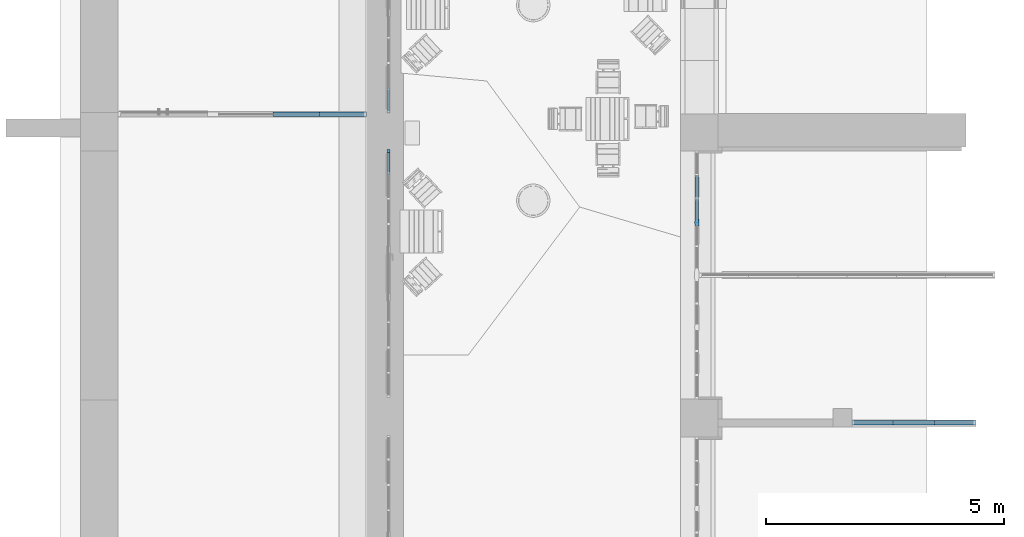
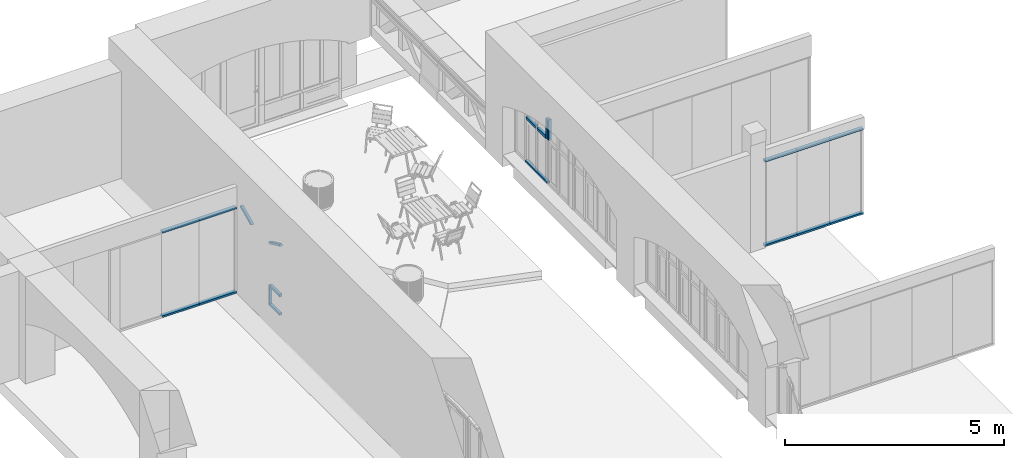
# One storey, part 45 of 88: 20 members, 5 elements without a shape of their own.
"""IFC2X3 building model written with IfcOpenShell, lengths in millimetres."""

from ifc_helpers import new_model, entity, si_unit, converted_unit, derived_unit, direction, frame, frame_2d, origin, place, context, subcontext, project, spatial, polyline, circle_curve, parameter, trimmed, segment, composite_curve, rectangle, outline, extrude, faceted_brep, source, transform, mapped, material, type_object, type_shapes, element, aggregate, save


model = new_model("IFC2X3")

# Units and contexts
model_context = context("Model", 3, precision=0.01, world=origin(), true_north=direction((6.123031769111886e-17, 1.0)))
body_context = subcontext(model_context, "Body", "Model", "MODEL_VIEW")
ifc_project = project(units=[si_unit("LENGTHUNIT", "METRE", prefix="MILLI"), si_unit("AREAUNIT", "SQUARE_METRE"), si_unit("VOLUMEUNIT", "CUBIC_METRE"), converted_unit("PLANEANGLEUNIT", "DEGREE", entity("IfcPlaneAngleMeasure", 0.017453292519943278), si_unit("PLANEANGLEUNIT", "RADIAN"), dimensions=[0, 0, 0, 0, 0, 0, 0]), si_unit("MASSUNIT", "GRAM", prefix="KILO"), derived_unit("MASSDENSITYUNIT", [(si_unit("MASSUNIT", "GRAM", prefix="KILO"), 1), (si_unit("LENGTHUNIT", "METRE"), -3)]), derived_unit("IONCONCENTRATIONUNIT", [(si_unit("MASSUNIT", "GRAM", prefix="KILO"), 1), (si_unit("LENGTHUNIT", "METRE"), -3)]), derived_unit("MOMENTOFINERTIAUNIT", [(si_unit("LENGTHUNIT", "METRE"), 4)]), si_unit("TIMEUNIT", "SECOND"), si_unit("FREQUENCYUNIT", "HERTZ"), si_unit("THERMODYNAMICTEMPERATUREUNIT", "DEGREE_CELSIUS"), derived_unit("THERMALTRANSMITTANCEUNIT", [(si_unit("MASSUNIT", "GRAM", prefix="KILO"), 1), (si_unit("THERMODYNAMICTEMPERATUREUNIT", "KELVIN"), -1), (si_unit("TIMEUNIT", "SECOND"), -3)]), derived_unit("THERMALCONDUCTANCEUNIT", [(si_unit("MASSUNIT", "GRAM", prefix="KILO"), 1), (si_unit("THERMODYNAMICTEMPERATUREUNIT", "KELVIN"), -1), (si_unit("TIMEUNIT", "SECOND"), -3), (si_unit("LENGTHUNIT", "METRE"), 1)]), derived_unit("VOLUMETRICFLOWRATEUNIT", [(si_unit("LENGTHUNIT", "METRE", prefix="DECI"), 3), (si_unit("TIMEUNIT", "SECOND"), -1)]), derived_unit("MASSFLOWRATEUNIT", [(si_unit("MASSUNIT", "GRAM", prefix="KILO"), 1), (si_unit("TIMEUNIT", "SECOND"), -1)]), derived_unit("ROTATIONALFREQUENCYUNIT", [(si_unit("TIMEUNIT", "SECOND"), -1)]), si_unit("ELECTRICCURRENTUNIT", "AMPERE"), si_unit("ELECTRICVOLTAGEUNIT", "VOLT"), si_unit("POWERUNIT", "WATT"), si_unit("FORCEUNIT", "NEWTON", prefix="KILO"), si_unit("ILLUMINANCEUNIT", "LUX"), si_unit("LUMINOUSFLUXUNIT", "LUMEN"), si_unit("LUMINOUSINTENSITYUNIT", "CANDELA"), si_unit("ENERGYUNIT", "JOULE"), derived_unit("USERDEFINED", [(si_unit("MASSUNIT", "GRAM", prefix="KILO"), -1), (si_unit("LENGTHUNIT", "METRE"), -2), (si_unit("TIMEUNIT", "SECOND"), 3), (si_unit("LUMINOUSFLUXUNIT", "LUMEN"), 1)]), derived_unit("USERDEFINED", [(si_unit("MASSUNIT", "GRAM", prefix="KILO"), 1), (si_unit("TIMEUNIT", "SECOND"), -3), (si_unit("LENGTHUNIT", "METRE"), 3), (si_unit("ELECTRICCURRENTUNIT", "AMPERE"), -2)]), derived_unit("SOUNDPOWERUNIT", [(si_unit("MASSUNIT", "GRAM", prefix="KILO"), 1), (si_unit("TIMEUNIT", "SECOND"), -3), (si_unit("LENGTHUNIT", "METRE"), 2)]), derived_unit("SOUNDPRESSUREUNIT", [(si_unit("MASSUNIT", "GRAM", prefix="KILO"), 1), (si_unit("LENGTHUNIT", "METRE"), -1), (si_unit("TIMEUNIT", "SECOND"), -2)]), derived_unit("LINEARVELOCITYUNIT", [(si_unit("LENGTHUNIT", "METRE"), 1), (si_unit("TIMEUNIT", "SECOND"), -1)]), si_unit("PRESSUREUNIT", "PASCAL"), derived_unit("USERDEFINED", [(si_unit("MASSUNIT", "GRAM", prefix="KILO"), 1), (si_unit("LENGTHUNIT", "METRE"), -2), (si_unit("TIMEUNIT", "SECOND"), -2)]), derived_unit("LINEARFORCEUNIT", [(si_unit("MASSUNIT", "GRAM", prefix="KILO"), 1), (si_unit("TIMEUNIT", "SECOND"), -2)]), derived_unit("PLANARFORCEUNIT", [(si_unit("MASSUNIT", "GRAM", prefix="KILO"), 1), (si_unit("LENGTHUNIT", "METRE"), -1), (si_unit("TIMEUNIT", "SECOND"), -2)]), derived_unit("SPECIFICHEATCAPACITYUNIT", [(si_unit("THERMODYNAMICTEMPERATUREUNIT", "KELVIN"), -1), (si_unit("LENGTHUNIT", "METRE"), 2), (si_unit("TIMEUNIT", "SECOND"), -2)]), derived_unit("HEATFLUXDENSITYUNIT", [(si_unit("MASSUNIT", "GRAM", prefix="KILO"), 1), (si_unit("TIMEUNIT", "SECOND"), -3)]), derived_unit("HEATINGVALUEUNIT", [(si_unit("LENGTHUNIT", "METRE"), 2), (si_unit("TIMEUNIT", "SECOND"), -2)]), derived_unit("VAPORPERMEABILITYUNIT", [(si_unit("LENGTHUNIT", "METRE"), -1), (si_unit("TIMEUNIT", "SECOND"), 1)]), derived_unit("DYNAMICVISCOSITYUNIT", [(si_unit("MASSUNIT", "GRAM", prefix="KILO"), 1), (si_unit("TIMEUNIT", "SECOND"), -1), (si_unit("LENGTHUNIT", "METRE"), -1)]), derived_unit("THERMALEXPANSIONCOEFFICIENTUNIT", [(si_unit("THERMODYNAMICTEMPERATUREUNIT", "KELVIN"), -1)]), derived_unit("MODULUSOFELASTICITYUNIT", [(si_unit("MASSUNIT", "GRAM", prefix="KILO"), 1), (si_unit("LENGTHUNIT", "METRE"), -1), (si_unit("TIMEUNIT", "SECOND"), -2)]), derived_unit("ISOTHERMALMOISTURECAPACITYUNIT", [(si_unit("MASSUNIT", "GRAM", prefix="KILO"), -1), (si_unit("LENGTHUNIT", "METRE"), 3)]), derived_unit("MOISTUREDIFFUSIVITYUNIT", [(si_unit("TIMEUNIT", "SECOND"), -1), (si_unit("LENGTHUNIT", "METRE"), 2)]), derived_unit("MASSPERLENGTHUNIT", [(si_unit("MASSUNIT", "GRAM", prefix="KILO"), 1), (si_unit("LENGTHUNIT", "METRE"), -1)]), derived_unit("THERMALRESISTANCEUNIT", [(si_unit("MASSUNIT", "GRAM", prefix="KILO"), -1), (si_unit("TIMEUNIT", "SECOND"), 3), (si_unit("THERMODYNAMICTEMPERATUREUNIT", "KELVIN"), 1)]), derived_unit("ACCELERATIONUNIT", [(si_unit("LENGTHUNIT", "METRE"), 1), (si_unit("TIMEUNIT", "SECOND"), -2)]), derived_unit("ANGULARVELOCITYUNIT", [(si_unit("TIMEUNIT", "SECOND"), -1), (si_unit("PLANEANGLEUNIT", "RADIAN"), 1)]), derived_unit("LINEARSTIFFNESSUNIT", [(si_unit("MASSUNIT", "GRAM", prefix="KILO"), 1), (si_unit("TIMEUNIT", "SECOND"), -2)]), derived_unit("WARPINGCONSTANTUNIT", [(si_unit("LENGTHUNIT", "METRE"), 6)]), derived_unit("LINEARMOMENTUNIT", [(si_unit("MASSUNIT", "GRAM", prefix="KILO"), 1), (si_unit("LENGTHUNIT", "METRE"), 1), (si_unit("TIMEUNIT", "SECOND"), -2)]), derived_unit("TORQUEUNIT", [(si_unit("MASSUNIT", "GRAM", prefix="KILO"), 1), (si_unit("LENGTHUNIT", "METRE"), 2), (si_unit("TIMEUNIT", "SECOND"), -2)])], contexts=[model_context])

# Site, building, storey
site_placement = place(None, origin())
site = spatial("IfcSite", under=ifc_project, at=site_placement, Name="Default", CompositionType="ELEMENT")
building_placement = place(site_placement, origin())
building = spatial("IfcBuilding", under=site, at=building_placement, Name="Eesti Rahvusraamatukogu hoone renoveerimise projekteerimistööd", CompositionType="ELEMENT")
storey_placement = place(building_placement, origin())
storey = spatial("IfcBuildingStorey", under=building, at=storey_placement, Name="1. korrus", CompositionType="ELEMENT", Elevation=0.0)

# Curtain wall, members
curtain_wall_type_1 = type_object("IfcCurtainWallType", Name="Curtain Wall:VLS Klaasvahesein profiilita 38db", PredefinedType="NOTDEFINED")
curtain_wall_1_placement = place(storey_placement, origin())
curtain_wall_1 = element("IfcCurtainWall", 1, at=curtain_wall_1_placement, inside=storey, type_object=curtain_wall_type_1, Name="Curtain Wall:VLS Klaasvahesein profiilita 38db", ObjectType="Curtain Wall:VLS Klaasvahesein profiilita 38db")
ifc_material_1 = material(Name="Aluminum")
member_type_1 = type_object("IfcMemberType", Name="Rectangular Mullion:50mm x 92mm", PredefinedType="MULLION", material=ifc_material_1)
shared_shape_1 = source(origin(), body_context, "Body", "SweptSolid", [
    extrude(rectangle(XDim=50.0, YDim=92.0, at=frame_2d((0.0, 3.552713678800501e-15), x_axis=(1.0, 0.0))), frame((-25.0, 0.0, -978.6246354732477), z_axis=(0.0, 0.0, 1.0), x_axis=(-1.0, 0.0, 0.0)), (0.0, 0.0, 1.0), 978.6246354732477),
])
type_shapes(member_type_1, [shared_shape_1])
member_1_placement = place(curtain_wall_1_placement, frame((-43370.0, 48760.37627987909, 0.0), z_axis=(1.0, 0.0, 0.0), x_axis=(0.0, 0.0, -1.0)))
member_1 = element("IfcMember", 2, at=member_1_placement, type_object=member_type_1, material=ifc_material_1, Name="Rectangular Mullion:50mm x 92mm", ObjectType="Rectangular Mullion:50mm x 92mm", context=body_context, shape_type="MappedRepresentation", body=[
    mapped(shared_shape_1, transform((0.0, 0.0, 0.0), scale=1.0)),
])
member_type_2 = type_object("IfcMemberType", Name="Rectangular Mullion:50mm x 92mm", PredefinedType="MULLION", material=ifc_material_1)
shared_shape_2 = source(origin(), body_context, "Body", "SweptSolid", [
    extrude(rectangle(XDim=50.0, YDim=92.0, at=frame_2d((0.0, 3.552713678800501e-15), x_axis=(1.0, 0.0))), frame((-25.0, 0.0, -978.6246351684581), z_axis=(0.0, 0.0, 1.0), x_axis=(-1.0, 0.0, 0.0)), (0.0, 0.0, 1.0), 978.6246351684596),
])
type_shapes(member_type_2, [shared_shape_2])
member_2_placement = place(curtain_wall_1_placement, frame((-44348.62463547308, 48760.37627987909, 0.0), z_axis=(1.0, 0.0, 0.0), x_axis=(0.0, 0.0, -1.0)))
member_2 = element("IfcMember", 3, at=member_2_placement, type_object=member_type_2, material=ifc_material_1, Name="Rectangular Mullion:50mm x 92mm", ObjectType="Rectangular Mullion:50mm x 92mm", context=body_context, shape_type="MappedRepresentation", body=[
    mapped(shared_shape_2, transform((0.0, 0.0, 0.0), scale=1.0)),
])
member_type_3 = type_object("IfcMemberType", Name="Rectangular Mullion:50mm x 92mm", PredefinedType="MULLION", material=ifc_material_1)
shared_shape_3 = source(origin(), body_context, "Body", "SweptSolid", [
    extrude(rectangle(XDim=50.0, YDim=92.0, at=frame_2d((0.0, 3.552713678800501e-15), x_axis=(1.0, 0.0))), frame((-25.0, 0.0, -978.6246354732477), z_axis=(0.0, 0.0, 1.0), x_axis=(-1.0, 0.0, 0.0)), (0.0, 0.0, 1.0), 978.6246354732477),
])
type_shapes(member_type_3, [shared_shape_3])
member_3_placement = place(curtain_wall_1_placement, frame((-44348.62463547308, 48760.37627987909, 2400.0), z_axis=(-1.0, 0.0, 0.0), x_axis=(0.0, 0.0, 1.0)))
member_3 = element("IfcMember", 4, at=member_3_placement, type_object=member_type_3, material=ifc_material_1, Name="Rectangular Mullion:50mm x 92mm", ObjectType="Rectangular Mullion:50mm x 92mm", context=body_context, shape_type="MappedRepresentation", body=[
    mapped(shared_shape_3, transform((0.0, 0.0, 0.0), scale=1.0)),
])
member_type_4 = type_object("IfcMemberType", Name="Rectangular Mullion:50mm x 92mm", PredefinedType="MULLION", material=ifc_material_1)
shared_shape_4 = source(origin(), body_context, "Body", "SweptSolid", [
    extrude(rectangle(XDim=50.0, YDim=92.0, at=frame_2d((0.0, 3.552713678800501e-15), x_axis=(1.0, 0.0))), frame((-25.0, 0.0, -978.624635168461), z_axis=(0.0, 0.0, 1.0), x_axis=(-1.0, 0.0, 0.0)), (0.0, 0.0, 1.0), 978.6246351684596),
])
type_shapes(member_type_4, [shared_shape_4])
member_4_placement = place(curtain_wall_1_placement, frame((-45327.24927064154, 48760.3762798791, 2400.0), z_axis=(-1.0, 0.0, 0.0), x_axis=(0.0, 0.0, 1.0)))
member_4 = element("IfcMember", 5, at=member_4_placement, type_object=member_type_4, material=ifc_material_1, Name="Rectangular Mullion:50mm x 92mm", ObjectType="Rectangular Mullion:50mm x 92mm", context=body_context, shape_type="MappedRepresentation", body=[
    mapped(shared_shape_4, transform((0.0, 0.0, 0.0), scale=1.0)),
])
aggregate(curtain_wall_1, [member_1, member_2, member_3, member_4])

curtain_wall_2_placement = place(storey_placement, origin())
curtain_wall_2 = element("IfcCurtainWall", 6, at=curtain_wall_2_placement, inside=storey, type_object=curtain_wall_type_1, Name="Curtain Wall:VLS Klaasvahesein profiilita 38db", ObjectType="Curtain Wall:VLS Klaasvahesein profiilita 38db")
member_type_5 = type_object("IfcMemberType", Name="Rectangular Mullion:50mm x 92mm", PredefinedType="MULLION", material=ifc_material_1)
shared_shape_5 = source(origin(), body_context, "Body", "SweptSolid", [
    extrude(rectangle(XDim=50.0, YDim=92.0, at=frame_2d((0.0, 3.552713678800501e-15), x_axis=(1.0, 0.0))), frame((-25.0, 0.0, -868.0), z_axis=(0.0, 0.0, 1.0), x_axis=(-1.0, 0.0, 0.0)), (0.0, 0.0, 1.0), 868.0000000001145),
])
type_shapes(member_type_5, [shared_shape_5])
member_5_placement = place(curtain_wall_2_placement, frame((-30590.0, 42290.0, 4050.0), z_axis=(1.0, 0.0, 0.0), x_axis=(0.0, 0.0, 1.0)))
member_5 = element("IfcMember", 7, at=member_5_placement, type_object=member_type_5, material=ifc_material_1, Name="Rectangular Mullion:50mm x 92mm", ObjectType="Rectangular Mullion:50mm x 92mm", context=body_context, shape_type="MappedRepresentation", body=[
    mapped(shared_shape_5, transform((0.0, 0.0, 0.0), scale=1.0)),
])
member_type_6 = type_object("IfcMemberType", Name="Rectangular Mullion:50mm x 92mm", PredefinedType="MULLION", material=ifc_material_1)
shared_shape_6 = source(origin(), body_context, "Body", "SweptSolid", [
    extrude(rectangle(XDim=50.0, YDim=92.0, at=frame_2d((0.0, 3.552713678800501e-15), x_axis=(1.0, 0.0))), frame((-25.0, 0.0, -866.0), z_axis=(0.0, 0.0, 1.0), x_axis=(-1.0, 0.0, 0.0)), (0.0, 0.0, 1.0), 865.9999999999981),
])
type_shapes(member_type_6, [shared_shape_6])
member_6_placement = place(curtain_wall_2_placement, frame((-33190.0, 42290.0, 1650.0), z_axis=(-1.0, 0.0, 0.0), x_axis=(0.0, 0.0, -1.0)))
member_6 = element("IfcMember", 8, at=member_6_placement, type_object=member_type_6, material=ifc_material_1, Name="Rectangular Mullion:50mm x 92mm", ObjectType="Rectangular Mullion:50mm x 92mm", context=body_context, shape_type="MappedRepresentation", body=[
    mapped(shared_shape_6, transform((0.0, 0.0, 0.0), scale=1.0)),
])
member_type_7 = type_object("IfcMemberType", Name="Rectangular Mullion:50mm x 92mm", PredefinedType="MULLION", material=ifc_material_1)
shared_shape_7 = source(origin(), body_context, "Body", "SweptSolid", [
    extrude(rectangle(XDim=50.0, YDim=92.0, at=frame_2d((0.0, 3.552713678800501e-15), x_axis=(1.0, 0.0))), frame((-25.0, 0.0, -866.0), z_axis=(0.0, 0.0, 1.0), x_axis=(-1.0, 0.0, 0.0)), (0.0, 0.0, 1.0), 865.9999999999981),
])
type_shapes(member_type_7, [shared_shape_7])
member_7_placement = place(curtain_wall_2_placement, frame((-32324.0, 42290.0, 4050.0), z_axis=(1.0, 0.0, 0.0), x_axis=(0.0, 0.0, 1.0)))
member_7 = element("IfcMember", 9, at=member_7_placement, type_object=member_type_7, material=ifc_material_1, Name="Rectangular Mullion:50mm x 92mm", ObjectType="Rectangular Mullion:50mm x 92mm", context=body_context, shape_type="MappedRepresentation", body=[
    mapped(shared_shape_7, transform((0.0, 0.0, 0.0), scale=1.0)),
])
member_type_8 = type_object("IfcMemberType", Name="Rectangular Mullion:50mm x 92mm", PredefinedType="MULLION", material=ifc_material_1)
shared_shape_8 = source(origin(), body_context, "Body", "SweptSolid", [
    extrude(rectangle(XDim=50.0, YDim=92.0, at=frame_2d((0.0, 3.552713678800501e-15), x_axis=(1.0, 0.0))), frame((-25.0, 0.0, -866.0), z_axis=(0.0, 0.0, 1.0), x_axis=(-1.0, 0.0, 0.0)), (0.0, 0.0, 1.0), 866.0000000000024),
])
type_shapes(member_type_8, [shared_shape_8])
member_8_placement = place(curtain_wall_2_placement, frame((-32324.0, 42290.0, 1650.0), z_axis=(-1.0, 0.0, 0.0), x_axis=(0.0, 0.0, -1.0)))
member_8 = element("IfcMember", 10, at=member_8_placement, type_object=member_type_8, material=ifc_material_1, Name="Rectangular Mullion:50mm x 92mm", ObjectType="Rectangular Mullion:50mm x 92mm", context=body_context, shape_type="MappedRepresentation", body=[
    mapped(shared_shape_8, transform((0.0, 0.0, 0.0), scale=1.0)),
])
member_type_9 = type_object("IfcMemberType", Name="Rectangular Mullion:50mm x 92mm", PredefinedType="MULLION", material=ifc_material_1)
shared_shape_9 = source(origin(), body_context, "Body", "SweptSolid", [
    extrude(rectangle(XDim=50.0, YDim=92.0, at=frame_2d((0.0, 3.552713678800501e-15), x_axis=(1.0, 0.0))), frame((-25.0, 0.0, -866.0), z_axis=(0.0, 0.0, 1.0), x_axis=(-1.0, 0.0, 0.0)), (0.0, 0.0, 1.0), 866.0000000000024),
])
type_shapes(member_type_9, [shared_shape_9])
member_9_placement = place(curtain_wall_2_placement, frame((-31458.0, 42290.0, 4050.0), z_axis=(1.0, 0.0, 0.0), x_axis=(0.0, 0.0, 1.0)))
member_9 = element("IfcMember", 11, at=member_9_placement, type_object=member_type_9, material=ifc_material_1, Name="Rectangular Mullion:50mm x 92mm", ObjectType="Rectangular Mullion:50mm x 92mm", context=body_context, shape_type="MappedRepresentation", body=[
    mapped(shared_shape_9, transform((0.0, 0.0, 0.0), scale=1.0)),
])
member_type_10 = type_object("IfcMemberType", Name="Rectangular Mullion:50mm x 92mm", PredefinedType="MULLION", material=ifc_material_1)
shared_shape_10 = source(origin(), body_context, "Body", "SweptSolid", [
    extrude(rectangle(XDim=50.0, YDim=92.0, at=frame_2d((0.0, 3.552713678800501e-15), x_axis=(1.0, 0.0))), frame((-25.0, 0.0, -868.0), z_axis=(0.0, 0.0, 1.0), x_axis=(-1.0, 0.0, 0.0)), (0.0, 0.0, 1.0), 868.0000000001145),
])
type_shapes(member_type_10, [shared_shape_10])
member_10_placement = place(curtain_wall_2_placement, frame((-31458.0, 42290.0, 1650.0), z_axis=(-1.0, 0.0, 0.0), x_axis=(0.0, 0.0, -1.0)))
member_10 = element("IfcMember", 12, at=member_10_placement, type_object=member_type_10, material=ifc_material_1, Name="Rectangular Mullion:50mm x 92mm", ObjectType="Rectangular Mullion:50mm x 92mm", context=body_context, shape_type="MappedRepresentation", body=[
    mapped(shared_shape_10, transform((0.0, 0.0, 0.0), scale=1.0)),
])
aggregate(curtain_wall_2, [member_5, member_6, member_7, member_8, member_9, member_10])

curtain_wall_type_2 = type_object("IfcCurtainWallType", Name="Curtain Wall:Ak-02", PredefinedType="NOTDEFINED")
curtain_wall_3_placement = place(storey_placement, origin())
curtain_wall_3 = element("IfcCurtainWall", 13, at=curtain_wall_3_placement, inside=storey, type_object=curtain_wall_type_2, Name="Curtain Wall:Ak-02", ObjectType="Curtain Wall:Ak-02")
ifc_material_2 = material(Name="LUMION_dark steel window frames")
member_type_11 = type_object("IfcMemberType", Name="Rectangular Mullion:NEW 150x90mm", PredefinedType="MULLION", material=ifc_material_2)
shared_shape_11 = source(origin(), body_context, "Body", "Brep", [
    faceted_brep([(-20.0, -40.0, 0.0), (-20.0, -45.0, 0.0), (20.0, -45.0, 0.0), (20.0, -40.0, 0.0), (75.0, -40.0, 0.0), (75.0, 40.0, 0.0), (20.0, 40.0, 0.0), (20.0, 45.0, 0.0), (-20.0, 45.0, 0.0), (-20.0, 40.0, 0.0), (-75.0, 40.0, 0.0), (-75.0, -40.0, 0.0), (-20.0, 40.0, -554.0449674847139), (-47.51534075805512, 40.0, -548.1824945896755), (-75.0, 40.0, -542.1778237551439), (75.0, 40.0, -573.1474168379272), (47.48603249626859, 40.0, -567.7959127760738), (20.0, 40.0, -562.3027332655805), (-75.0, -40.0, -542.1778237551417), (-47.515340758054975, -40.0, -548.1824945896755), (-20.0, -40.0, -554.0449674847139), (20.0, -40.0, -562.30273326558), (47.48603249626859, -40.0, -567.7959127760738), (75.0, -40.0, -573.1474168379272), (-20.0, -45.0, -554.0449674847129), (-20.0, 45.0, -554.0449674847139), (-2.036281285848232, -45.0, -557.7922042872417), (15.939962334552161, -45.0, -561.4788296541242), (17.969902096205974, -45.0, -561.8911677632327), (20.0, -45.0, -562.3027332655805), (20.0, 45.0, -562.30273326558), (17.969902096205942, 45.0, -561.8911677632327), (15.939962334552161, 45.0, -561.4788296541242), (-2.036281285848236, 45.0, -557.7922042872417), (15.939962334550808, 33.74999999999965, -561.4788296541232), (15.939962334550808, 22.499999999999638, -561.4788296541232), (15.939962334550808, 0.0, -561.4788296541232), (15.939962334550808, -22.500000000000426, -561.4788296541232), (15.939962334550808, -33.75000000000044, -561.4788296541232)], [[[0, 1, 2, 3, 4, 5, 6, 7, 8, 9, 10, 11]], [[10, 9, 12, 13, 14]], [[6, 5, 15, 16, 17]], [[11, 10, 14, 18]], [[0, 11, 18, 19, 20]], [[4, 3, 21, 22, 23]], [[1, 0, 20, 24]], [[9, 8, 25, 12]], [[1, 24, 26, 27, 28, 29, 2]], [[3, 2, 29, 21]], [[7, 6, 17, 30]], [[5, 4, 23, 15]], [[7, 30, 31, 32, 33, 25, 8]], [[26, 33, 32, 34, 35, 36, 37, 38, 27]], [[20, 12, 25, 33, 26, 24]], [[20, 19, 13, 12]], [[19, 18, 14, 13]], [[15, 23, 22, 16]], [[17, 35, 34, 32]], [[21, 27, 38, 37]], [[16, 35, 17]], [[21, 37, 22]], [[36, 35, 16, 22, 37]], [[27, 21, 28]], [[31, 30, 17]], [[28, 21, 29]], [[17, 32, 31]]]),
])
type_shapes(member_type_11, [shared_shape_11])
member_11_placement = place(curtain_wall_3_placement, frame((-36440.0, 46490.0, 3230.0), z_axis=(0.0, 0.0, -1.0), x_axis=(0.0, -1.0, 0.0)))
member_11 = element("IfcMember", 14, at=member_11_placement, type_object=member_type_11, material=ifc_material_2, Name="Rectangular Mullion:NEW 150x90mm", ObjectType="Rectangular Mullion:NEW 150x90mm", context=body_context, shape_type="MappedRepresentation", body=[
    mapped(shared_shape_11, transform((0.0, 0.0, 0.0), scale=1.0)),
])
member_type_12 = type_object("IfcMemberType", Name="Rectangular Mullion:NEW 80x70mm", PredefinedType="MULLION", material=ifc_material_2)
shared_shape_12 = source(origin(), body_context, "Body", "SweptSolid", [
    extrude(rectangle(XDim=80.0, YDim=70.0, at=frame_2d((0.0, -3.552713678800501e-15), x_axis=(1.0, 0.0))), frame((0.0, 0.0, -420.0), z_axis=(0.0, 0.0, 1.0), x_axis=(-1.0, 0.0, 0.0)), (0.0, 0.0, 1.0), 419.999999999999),
])
type_shapes(member_type_12, [shared_shape_12])
member_12_placement = place(curtain_wall_3_placement, frame((-36440.0, 47030.0, 3230.0), z_axis=(0.0, -1.0, 0.0), x_axis=(0.0, 0.0, 1.0)))
member_12 = element("IfcMember", 15, at=member_12_placement, type_object=member_type_12, material=ifc_material_2, Name="Rectangular Mullion:NEW 80x70mm", ObjectType="Rectangular Mullion:NEW 80x70mm", context=body_context, shape_type="MappedRepresentation", body=[
    mapped(shared_shape_12, transform((0.0, 0.0, 0.0), scale=1.0)),
])
member_type_13 = type_object("IfcMemberType", Name="Rectangular Mullion:NEW 80x70mm", PredefinedType="MULLION", material=ifc_material_2)
shared_shape_13 = source(origin(), body_context, "Body", "SweptSolid", [
    extrude(rectangle(XDim=80.0, YDim=70.0, at=frame_2d((0.0, -3.552713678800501e-15), x_axis=(1.0, 0.0))), frame((0.0, 0.0, -385.0), z_axis=(0.0, 0.0, 1.0), x_axis=(-1.0, 0.0, 0.0)), (0.0, 0.0, 1.0), 384.99999999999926),
])
type_shapes(member_type_13, [shared_shape_13])
member_13_placement = place(curtain_wall_3_placement, frame((-36440.0, 46565.0, 3230.0), z_axis=(0.0, -1.0, 0.0), x_axis=(0.0, 0.0, 1.0)))
member_13 = element("IfcMember", 16, at=member_13_placement, type_object=member_type_13, material=ifc_material_2, Name="Rectangular Mullion:NEW 80x70mm", ObjectType="Rectangular Mullion:NEW 80x70mm", context=body_context, shape_type="MappedRepresentation", body=[
    mapped(shared_shape_13, transform((0.0, 0.0, 0.0), scale=1.0)),
])
member_type_14 = type_object("IfcMemberType", Name="Rectangular Mullion:NEW 60x70mm", PredefinedType="MULLION", material=ifc_material_2)
shared_shape_14 = source(origin(), body_context, "Body", "SweptSolid", [
    extrude(rectangle(XDim=60.0, YDim=70.0, at=frame_2d((0.0, 3.552713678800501e-15), x_axis=(1.0, 0.0))), frame((-30.0, 0.0, -500.0), z_axis=(0.0, 0.0, 1.0), x_axis=(-1.0, 0.0, 0.0)), (0.0, 0.0, 1.0), 499.999999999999),
])
type_shapes(member_type_14, [shared_shape_14])
member_14_placement = place(curtain_wall_3_placement, frame((-36440.0, 47490.0, 1980.0), z_axis=(0.0, 1.0, 0.0), x_axis=(0.0, 0.0, -1.0)))
member_14 = element("IfcMember", 17, at=member_14_placement, type_object=member_type_14, material=ifc_material_2, Name="Rectangular Mullion:NEW 60x70mm", ObjectType="Rectangular Mullion:NEW 60x70mm", context=body_context, shape_type="MappedRepresentation", body=[
    mapped(shared_shape_14, transform((0.0, 0.0, 0.0), scale=1.0)),
])
member_15_placement = place(curtain_wall_3_placement, frame((-36440.0, 46990.0, 1980.0), z_axis=(0.0, 1.0, 0.0), x_axis=(0.0, 0.0, -1.0)))
member_15 = element("IfcMember", 18, at=member_15_placement, type_object=member_type_14, material=ifc_material_2, Name="Rectangular Mullion:NEW 60x70mm", ObjectType="Rectangular Mullion:NEW 60x70mm", context=body_context, shape_type="MappedRepresentation", body=[
    mapped(shared_shape_14, transform((0.0, 0.0, 0.0), scale=1.0)),
])
aggregate(curtain_wall_3, [member_11, member_12, member_13, member_14, member_15])

# Curtain wall, member
curtain_wall_type_3 = type_object("IfcCurtainWallType", Name="Curtain Wall:Ak-05", PredefinedType="NOTDEFINED")
curtain_wall_4_placement = place(storey_placement, origin())
curtain_wall_4 = element("IfcCurtainWall", 19, at=curtain_wall_4_placement, inside=storey, type_object=curtain_wall_type_3, Name="Curtain Wall:Ak-05", ObjectType="Curtain Wall:Ak-05")
member_type_15 = type_object("IfcMemberType", Name="Rectangular Mullion:NEW 60x70mm", PredefinedType="MULLION", material=ifc_material_2)
shared_shape_15 = source(origin(), body_context, "Body", "SweptSolid", [
    extrude(outline(composite_curve([segment(trimmed(circle_curve(frame_2d((4549.812785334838, 3066.2072493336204), x_axis=(-0.8006634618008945, -0.5991143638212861)), 5523.280566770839), [parameter(354.15250498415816)], [parameter(359.99999999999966)], True, "PARAMETER"), True, "CONTINUOUS"), segment(polyline([(127.52384624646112, -242.86947363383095), (175.56365395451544, -206.92261180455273)]), True, "CONTINUOUS"), segment(trimmed(circle_curve(frame_2d((4549.812785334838, 3066.2072493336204), x_axis=(-0.8006634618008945, -0.5991143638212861)), 5463.280566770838), [parameter(354.53073311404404)], [parameter(359.99999999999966)], True, "PARAMETER"), False, "CONTINUOUS"), segment(polyline([(-116.49037438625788, 224.89604271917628), (-186.59712581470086, 224.89604271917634)]), True, "CONTINUOUS")], self_intersect=False)), frame((-43.402905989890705, -35.0, -270.85808154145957), z_axis=(0.0, -1.0, 0.0), x_axis=(-0.800663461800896, 0.0, 0.5991143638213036)), (0.0, 0.0, -1.0), 69.99999999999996),
])
type_shapes(member_type_15, [shared_shape_15])
member_16_placement = place(curtain_wall_4_placement, frame((-42905.0, 47515.0, 1939.304710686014), z_axis=(0.0, -0.9256428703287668, 0.3783983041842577), x_axis=(0.0, 0.3783983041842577, 0.9256428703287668)))
member_16 = element("IfcMember", 20, at=member_16_placement, type_object=member_type_15, material=ifc_material_2, Name="Rectangular Mullion:NEW 60x70mm", ObjectType="Rectangular Mullion:NEW 60x70mm", context=body_context, shape_type="MappedRepresentation", body=[
    mapped(shared_shape_15, transform((0.0, 0.0, 0.0), scale=1.0)),
])

curtain_wall_5_placement = place(storey_placement, origin())
curtain_wall_5 = element("IfcCurtainWall", 21, at=curtain_wall_5_placement, inside=storey, type_object=curtain_wall_type_3, Name="Curtain Wall:Ak-05", ObjectType="Curtain Wall:Ak-05")
member_type_16 = type_object("IfcMemberType", Name="Rectangular Mullion:NEW 60x70mm", PredefinedType="MULLION", material=ifc_material_2)
shared_shape_16 = source(origin(), body_context, "Body", "SweptSolid", [
    extrude(outline(composite_curve([segment(polyline([(-43.402905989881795, -270.8580815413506), (16.59709401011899, -270.85808154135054)]), True, "CONTINUOUS"), segment(trimmed(circle_curve(frame_2d((5479.877660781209, -270.8580815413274), x_axis=(-0.9947965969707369, 0.10188096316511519)), 5463.280566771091), [parameter(0.37822812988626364)], [parameter(5.847495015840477)], True, "PARAMETER"), False, "CONTINUOUS"), segment(polyline([(41.46886313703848, 249.85710065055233), (-14.66305115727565, 291.85906243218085)]), True, "CONTINUOUS"), segment(trimmed(circle_curve(frame_2d((5479.877660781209, -270.8580815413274), x_axis=(-0.9947965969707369, 0.10188096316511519)), 5523.280566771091), [parameter(3.5622212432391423e-13)], [parameter(5.847495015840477)], True, "PARAMETER"), True, "CONTINUOUS")], self_intersect=False)), frame((-44.32163578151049, -35.0, -288.84651632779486), z_axis=(0.0, 1.0, 0.0), x_axis=(-0.9947965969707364, 0.0, 0.10188096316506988)), (0.0, 0.0, 1.0), 69.99999999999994),
])
type_shapes(member_type_16, [shared_shape_16])
member_17_placement = place(curtain_wall_5_placement, frame((-42905.0, 48790.0, 1699.7706559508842), z_axis=(0.0, -0.8822747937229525, -0.4707347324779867), x_axis=(0.0, -0.4707347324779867, 0.8822747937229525)))
member_17 = element("IfcMember", 22, at=member_17_placement, type_object=member_type_16, material=ifc_material_2, Name="Rectangular Mullion:NEW 60x70mm", ObjectType="Rectangular Mullion:NEW 60x70mm", context=body_context, shape_type="MappedRepresentation", body=[
    mapped(shared_shape_16, transform((0.0, 0.0, 0.0), scale=1.0)),
])
aggregate(curtain_wall_5, [member_17])

# Member
member_type_17 = type_object("IfcMemberType", Name="Rectangular Mullion:NEW 80x70mm", PredefinedType="MULLION", material=ifc_material_2)
shared_shape_17 = source(origin(), body_context, "Body", "SweptSolid", [
    extrude(rectangle(XDim=80.0, YDim=70.0, at=frame_2d((0.0, -3.552713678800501e-15), x_axis=(1.0, 0.0))), frame((0.0, 0.0, -450.0), z_axis=(0.0, 0.0, 1.0), x_axis=(-1.0, 0.0, 0.0)), (0.0, 0.0, 1.0), 449.9999999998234),
])
type_shapes(member_type_17, [shared_shape_17])
member_18_placement = place(curtain_wall_4_placement, frame((-42905.0, 47515.0, 500.0), z_axis=(0.0, -1.0, 0.0), x_axis=(0.0, 0.0, 1.0)))
member_18 = element("IfcMember", 23, at=member_18_placement, type_object=member_type_17, material=ifc_material_2, Name="Rectangular Mullion:NEW 80x70mm", ObjectType="Rectangular Mullion:NEW 80x70mm", context=body_context, shape_type="MappedRepresentation", body=[
    mapped(shared_shape_17, transform((0.0, 0.0, 0.0), scale=1.0)),
])

member_type_18 = type_object("IfcMemberType", Name="Rectangular Mullion:NEW 60x70mm", PredefinedType="MULLION", material=ifc_material_2)
shared_shape_18 = source(origin(), body_context, "Body", "SweptSolid", [
    extrude(rectangle(XDim=60.0, YDim=70.0, at=frame_2d((0.0, 3.552713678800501e-15), x_axis=(1.0, 0.0))), frame((-30.0, 0.0, -550.0), z_axis=(0.0, 0.0, 1.0), x_axis=(-1.0, 0.0, 0.0)), (0.0, 0.0, 1.0), 550.0000000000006),
])
type_shapes(member_type_18, [shared_shape_18])
member_19_placement = place(curtain_wall_4_placement, frame((-42905.0, 48025.0, 500.0), z_axis=(0.0, 0.0, 1.0), x_axis=(0.0, 1.0, 0.0)))
member_19 = element("IfcMember", 24, at=member_19_placement, type_object=member_type_18, material=ifc_material_2, Name="Rectangular Mullion:NEW 60x70mm", ObjectType="Rectangular Mullion:NEW 60x70mm", context=body_context, shape_type="MappedRepresentation", body=[
    mapped(shared_shape_18, transform((0.0, 0.0, 0.0), scale=1.0)),
])

member_type_19 = type_object("IfcMemberType", Name="Rectangular Mullion:NEW 60x70mm", PredefinedType="MULLION", material=ifc_material_2)
shared_shape_19 = source(origin(), body_context, "Body", "SweptSolid", [
    extrude(rectangle(XDim=60.0, YDim=70.0, at=frame_2d((0.0, 3.552713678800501e-15), x_axis=(1.0, 0.0))), frame((-30.0, 0.0, -450.0), z_axis=(0.0, 0.0, 1.0), x_axis=(-1.0, 0.0, 0.0)), (0.0, 0.0, 1.0), 449.9999999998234),
])
type_shapes(member_type_19, [shared_shape_19])
member_20_placement = place(curtain_wall_4_placement, frame((-42905.0, 47965.0, -50.0), z_axis=(0.0, 1.0, 0.0), x_axis=(0.0, 0.0, -1.0)))
member_20 = element("IfcMember", 25, at=member_20_placement, type_object=member_type_19, material=ifc_material_2, Name="Rectangular Mullion:NEW 60x70mm", ObjectType="Rectangular Mullion:NEW 60x70mm", context=body_context, shape_type="MappedRepresentation", body=[
    mapped(shared_shape_19, transform((0.0, 0.0, 0.0), scale=1.0)),
])

aggregate(curtain_wall_4, [member_16, member_18, member_19, member_20])

save(model, "model.ifc")
